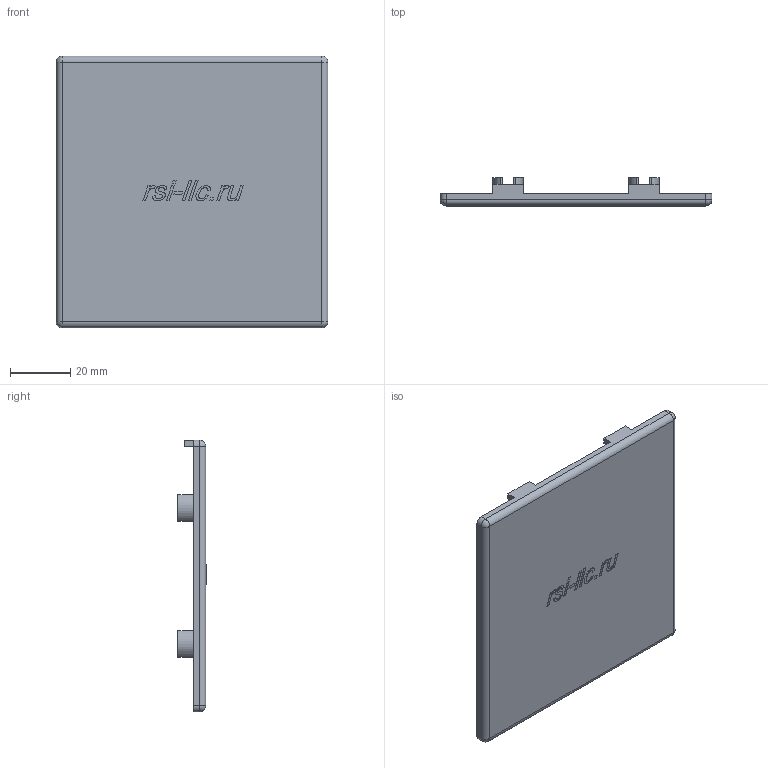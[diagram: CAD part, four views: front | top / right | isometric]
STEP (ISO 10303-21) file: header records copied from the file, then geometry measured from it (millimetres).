
FILE_DESCRIPTION (( 'STEP AP214' ), '1' );
FILE_NAME ('4017.STEP', '2020-10-21T11:29:29', ( '' ), ( '' ), 'SwSTEP 2.0', 'SolidWorks 2018', '' );
FILE_SCHEMA (( 'AUTOMOTIVE_DESIGN' ));
Length unit declared in the file: millimetre
Products named in the file (1): 4017
Bounding box: 90 x 9.3 x 90 mm (x, y, z)
Volume: 18040.8 mm3; surface area: 19312.6 mm2
Topology: 1 solids, 1 shells, 224 faces, 561 edges, 354 vertices
Faces by surface type: plane 88, cylinder 56, torus 44, bspline 32, sphere 4
Entity records: 9477 total; most frequent: CARTESIAN_POINT 3120, ORIENTED_EDGE 1114, DIRECTION 1083, EDGE_CURVE 557, AXIS2_PLACEMENT_3D 397, VERTEX_POINT 354, VECTOR 289, LINE 289
